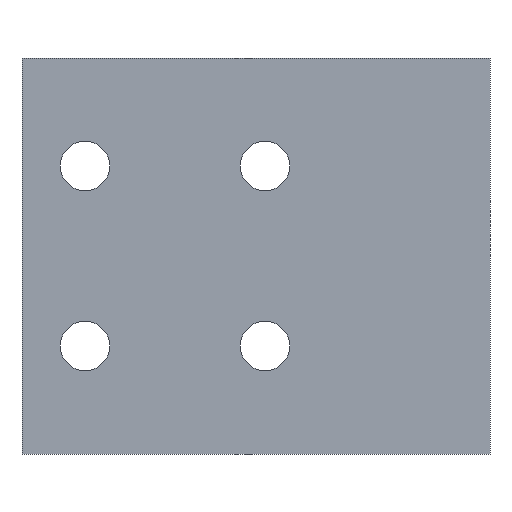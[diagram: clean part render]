
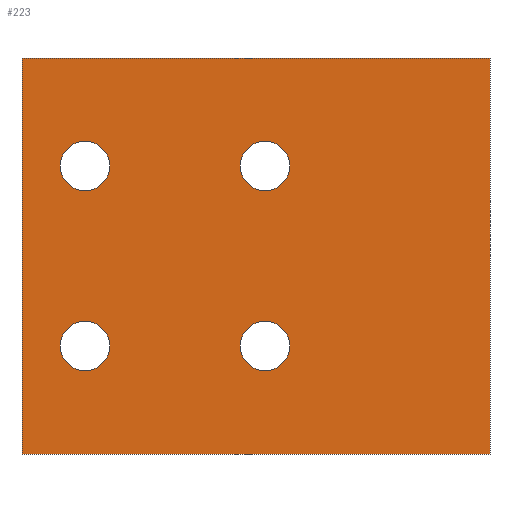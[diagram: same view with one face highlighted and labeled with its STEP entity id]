
A CAD part, front view. The second image highlights one B-rep face of the part: STEP entity #223.
In plain terms, the highlighted planar face has unit normal (0, -1, 0).
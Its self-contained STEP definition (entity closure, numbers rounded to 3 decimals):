
#113 = EDGE_CURVE( '', #139, #191, #280, .T. );
#115 = EDGE_CURVE( '', #165, #167, #282, .T. );
#123 = VERTEX_POINT( '', #291 );
#135 = EDGE_CURVE( '', #171, #227, #304, .T. );
#139 = VERTEX_POINT( '', #308 );
#157 = EDGE_CURVE( '', #165, #139, #326, .T. );
#165 = VERTEX_POINT( '', #334 );
#167 = VERTEX_POINT( '', #336 );
#171 = VERTEX_POINT( '', #340 );
#175 = VERTEX_POINT( '', #344 );
#187 = EDGE_CURVE( '', #215, #203, #365, .T. );
#191 = VERTEX_POINT( '', #369 );
#195 = EDGE_CURVE( '', #123, #175, #373, .T. );
#201 = VERTEX_POINT( '', #381 );
#203 = VERTEX_POINT( '', #383 );
#207 = EDGE_CURVE( '', #227, #171, #387, .T. );
#211 = EDGE_CURVE( '', #203, #215, #392, .T. );
#215 = VERTEX_POINT( '', #396 );
#223 = ADVANCED_FACE( '', ( #405, #406, #407, #408, #409 ), #410, .T. );
#227 = VERTEX_POINT( '', #415 );
#229 = EDGE_CURVE( '', #167, #191, #417, .T. );
#237 = EDGE_CURVE( '', #175, #123, #425, .T. );
#239 = VERTEX_POINT( '', #427 );
#245 = EDGE_CURVE( '', #239, #201, #433, .T. );
#247 = EDGE_CURVE( '', #201, #239, #435, .T. );
#280 = LINE( '', #467, #468 );
#282 = LINE( '', #471, #472 );
#291 = CARTESIAN_POINT( '', ( -1.75, 0., 10. ) );
#304 = CIRCLE( '', #503, 2.75 );
#308 = CARTESIAN_POINT( '', ( -26., 0., 22. ) );
#326 = LINE( '', #531, #532 );
#334 = CARTESIAN_POINT( '', ( 26., 0., 22. ) );
#336 = CARTESIAN_POINT( '', ( 26., 0., -22. ) );
#340 = CARTESIAN_POINT( '', ( -21.75, 0., 10. ) );
#344 = CARTESIAN_POINT( '', ( 3.75, 0., 10. ) );
#365 = CIRCLE( '', #577, 2.75 );
#369 = CARTESIAN_POINT( '', ( -26., 0., -22. ) );
#373 = CIRCLE( '', #586, 2.75 );
#381 = CARTESIAN_POINT( '', ( -1.75, 0., -10. ) );
#383 = CARTESIAN_POINT( '', ( -21.75, 0., -10. ) );
#387 = CIRCLE( '', #603, 2.75 );
#392 = CIRCLE( '', #609, 2.75 );
#396 = CARTESIAN_POINT( '', ( -16.25, 0., -10. ) );
#405 = FACE_BOUND( '', #626, .T. );
#406 = FACE_BOUND( '', #627, .T. );
#407 = FACE_BOUND( '', #628, .T. );
#408 = FACE_BOUND( '', #629, .T. );
#409 = FACE_OUTER_BOUND( '', #630, .T. );
#410 = PLANE( '', #631 );
#415 = CARTESIAN_POINT( '', ( -16.25, 0., 10. ) );
#417 = LINE( '', #639, #640 );
#425 = CIRCLE( '', #653, 2.75 );
#427 = CARTESIAN_POINT( '', ( 3.75, 0., -10. ) );
#433 = CIRCLE( '', #665, 2.75 );
#435 = CIRCLE( '', #668, 2.75 );
#467 = CARTESIAN_POINT( '', ( -26., 0., 22. ) );
#468 = VECTOR( '', #687, 1. );
#471 = CARTESIAN_POINT( '', ( 26., 0., 22. ) );
#472 = VECTOR( '', #688, 1. );
#503 = AXIS2_PLACEMENT_3D( '', #714, #715, #716 );
#531 = CARTESIAN_POINT( '', ( 26., 0., 22. ) );
#532 = VECTOR( '', #726, 1. );
#577 = AXIS2_PLACEMENT_3D( '', #780, #781, #782 );
#586 = AXIS2_PLACEMENT_3D( '', #783, #784, #785 );
#603 = AXIS2_PLACEMENT_3D( '', #803, #804, #805 );
#609 = AXIS2_PLACEMENT_3D( '', #814, #815, #816 );
#626 = EDGE_LOOP( '', ( #828, #829 ) );
#627 = EDGE_LOOP( '', ( #830, #831 ) );
#628 = EDGE_LOOP( '', ( #832, #833 ) );
#629 = EDGE_LOOP( '', ( #834, #835 ) );
#630 = EDGE_LOOP( '', ( #836, #837, #838, #839 ) );
#631 = AXIS2_PLACEMENT_3D( '', #840, #841, #842 );
#639 = CARTESIAN_POINT( '', ( 26., 0., -22. ) );
#640 = VECTOR( '', #851, 1. );
#653 = AXIS2_PLACEMENT_3D( '', #854, #855, #856 );
#665 = AXIS2_PLACEMENT_3D( '', #861, #862, #863 );
#668 = AXIS2_PLACEMENT_3D( '', #864, #865, #866 );
#687 = DIRECTION( '', ( 0., 0., -1. ) );
#688 = DIRECTION( '', ( 0., 0., -1. ) );
#714 = CARTESIAN_POINT( '', ( -19., 0., 10. ) );
#715 = DIRECTION( '', ( 0., 1., 0. ) );
#716 = DIRECTION( '', ( -1., 0., 0. ) );
#726 = DIRECTION( '', ( -1., 0., 0. ) );
#780 = CARTESIAN_POINT( '', ( -19., 0., -10. ) );
#781 = DIRECTION( '', ( 0., 1., 0. ) );
#782 = DIRECTION( '', ( -1., 0., 0. ) );
#783 = CARTESIAN_POINT( '', ( 1., 0., 10. ) );
#784 = DIRECTION( '', ( 0., 1., 0. ) );
#785 = DIRECTION( '', ( -1., 0., 0. ) );
#803 = CARTESIAN_POINT( '', ( -19., 0., 10. ) );
#804 = DIRECTION( '', ( 0., 1., 0. ) );
#805 = DIRECTION( '', ( -1., 0., 0. ) );
#814 = CARTESIAN_POINT( '', ( -19., 0., -10. ) );
#815 = DIRECTION( '', ( 0., 1., 0. ) );
#816 = DIRECTION( '', ( -1., 0., 0. ) );
#828 = ORIENTED_EDGE( '', *, *, #237, .T. );
#829 = ORIENTED_EDGE( '', *, *, #195, .T. );
#830 = ORIENTED_EDGE( '', *, *, #207, .T. );
#831 = ORIENTED_EDGE( '', *, *, #135, .T. );
#832 = ORIENTED_EDGE( '', *, *, #245, .T. );
#833 = ORIENTED_EDGE( '', *, *, #247, .T. );
#834 = ORIENTED_EDGE( '', *, *, #187, .T. );
#835 = ORIENTED_EDGE( '', *, *, #211, .T. );
#836 = ORIENTED_EDGE( '', *, *, #113, .T. );
#837 = ORIENTED_EDGE( '', *, *, #229, .F. );
#838 = ORIENTED_EDGE( '', *, *, #115, .F. );
#839 = ORIENTED_EDGE( '', *, *, #157, .T. );
#840 = CARTESIAN_POINT( '', ( 26., 0., 22. ) );
#841 = DIRECTION( '', ( 0., -1., 0. ) );
#842 = DIRECTION( '', ( 0., 0., 1. ) );
#851 = DIRECTION( '', ( -1., 0., 0. ) );
#854 = CARTESIAN_POINT( '', ( 1., 0., 10. ) );
#855 = DIRECTION( '', ( 0., 1., 0. ) );
#856 = DIRECTION( '', ( -1., 0., 0. ) );
#861 = CARTESIAN_POINT( '', ( 1., 0., -10. ) );
#862 = DIRECTION( '', ( 0., 1., 0. ) );
#863 = DIRECTION( '', ( -1., 0., 0. ) );
#864 = CARTESIAN_POINT( '', ( 1., 0., -10. ) );
#865 = DIRECTION( '', ( 0., 1., 0. ) );
#866 = DIRECTION( '', ( -1., 0., 0. ) );
